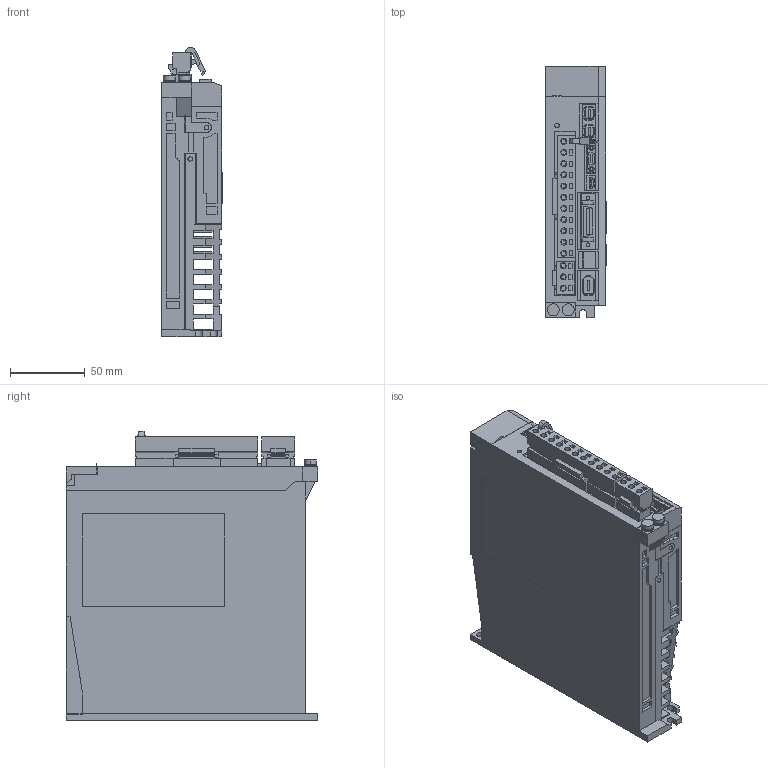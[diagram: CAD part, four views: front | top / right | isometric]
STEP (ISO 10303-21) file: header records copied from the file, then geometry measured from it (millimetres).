
FILE_DESCRIPTION (( 'STEP AP203' ), '1' );
FILE_NAME ('sgd7s_2r8a20a.STEP', '2014-03-06T04:30:40', ( '匠エンジニアリング山之内' ), ( 'TAKUMI-Engniaring' ), 'SwSTEP 2.0', 'SolidWorks 2006303', '' );
FILE_SCHEMA (( 'CONFIG_CONTROL_DESIGN' ));
Products named in the file (9): sgd7s_2r8a20a_pin; sgd7s_2r8a20a_connector_1; sgd7s_2r8a20a; sgd7s_2r8a20a_base; sgd7s_2r8a20a_connector; sgd7s_2r8a20a_connector_2; sgd7s_2r8a20a_cover; sgd7s_2r8a20a_cover2; sgd7s_2r8a20a_connector_3
Assembly tree (9 placements, depth 3):
  sgd7s_2r8a20a
    sgd7s_2r8a20a_base
    sgd7s_2r8a20a_cover2  x2
    sgd7s_2r8a20a_cover
    sgd7s_2r8a20a_connector
      sgd7s_2r8a20a_pin
      sgd7s_2r8a20a_connector_2
    sgd7s_2r8a20a_connector_3
    sgd7s_2r8a20a_connector_1
Bounding box: 40.5 x 168 x 193.83 mm (x, y, z)
Volume: 938128.5 mm3; surface area: 169430.9 mm2
Topology: 8 solids, 8 shells, 1806 faces, 4828 edges, 3178 vertices
Faces by surface type: plane 1657, cylinder 144, cone 4, sphere 1
Entity records: 55647 total; most frequent: CARTESIAN_POINT 9714, ORIENTED_EDGE 9548, DIRECTION 8666, EDGE_CURVE 4774, LINE 4478, VECTOR 4478, VERTEX_POINT 3142, AXIS2_PLACEMENT_3D 2094
